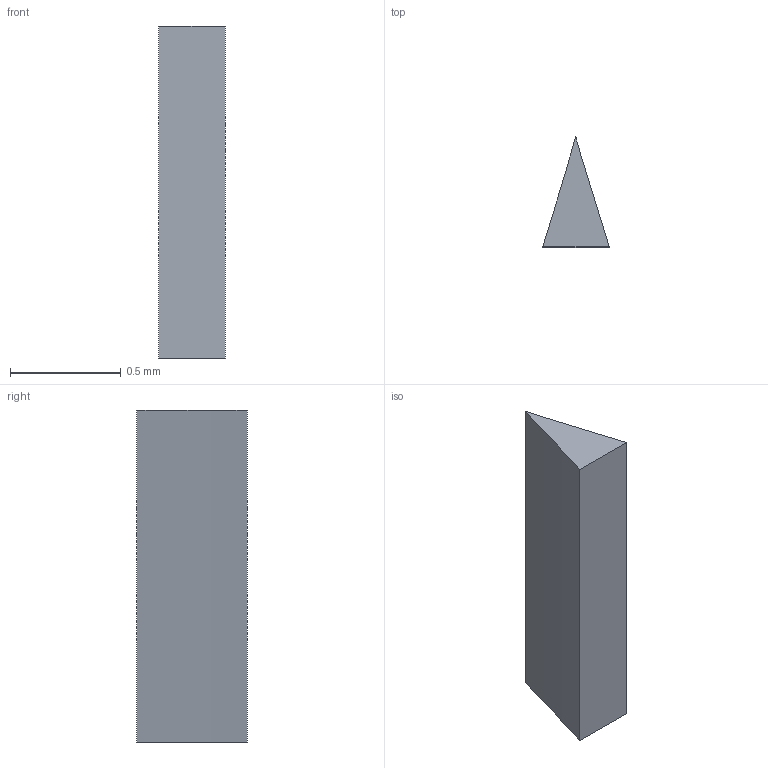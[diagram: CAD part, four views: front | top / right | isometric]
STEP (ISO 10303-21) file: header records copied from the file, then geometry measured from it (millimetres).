
FILE_DESCRIPTION(('STEP AP242 Edition 2','STEP AP242 Edition 2''CAx-IF Rec.Pracs.---Representation and Presentation of Product Manufacturing Information (PMI)---4.0---2014-10-13','STEP AP242 Edition 2''CAx-IF Rec.Pracs.---Representation and Presentation of Product Manufacturing Information (PMI)---4.0---2014-10-13''CAx-IF Rec.Pracs.---3D Tessellated Geometry---0.4---2014-09-14','STEP AP242 Edition 2''CAx-IF Rec.Pracs.---Representation and Presentation of Product Manufacturing Information (PMI)---4.0---2014-10-13''CAx-IF Rec.Pracs.---3D Tessellated Geometry---0.4---2014-09-14''2;1','STEP AP242 Edition 2''CAx-IF Rec.Pracs.---Representation and Presentation of Product Manufacturing Information (PMI)---4.0---2014-10-13''CAx-IF Rec.Pracs.---3D Tessellated Geometry---0.4---2014-09-14''2;1''CAx-IF Rec.Pracs.---User Defined Attributes---1.5---2016-08-15'),'2;1');
FILE_NAME('/vol/tmp/translate-17016349319801364938/Part Studio 2 - Part 2.step','2026-03-29T21:16:22',(''),(''),'ST-DEVELOPER v20','ONSHAPE BY PTC INC, 1.212',' ');
FILE_SCHEMA(('AP242_MANAGED_MODEL_BASED_3D_ENGINEERING_MIM_LF { 1 0 10303 442 3 1 4 }'));
Length unit declared in the file: metre
Products named in the file (1): Part 2
Bounding box: 0.3 x 0.5 x 1.5 mm (x, y, z)
Volume: 0.1 mm3; surface area: 2.2 mm2
Topology: 1 solids, 1 shells, 6 faces, 12 edges, 8 vertices
Faces by surface type: plane 4, cylinder 2
Entity records: 182 total; most frequent: DIRECTION 30, CARTESIAN_POINT 27, ORIENTED_EDGE 24, EDGE_CURVE 12, AXIS2_PLACEMENT_3D 11, VERTEX_POINT 8, LINE 8, VECTOR 8
